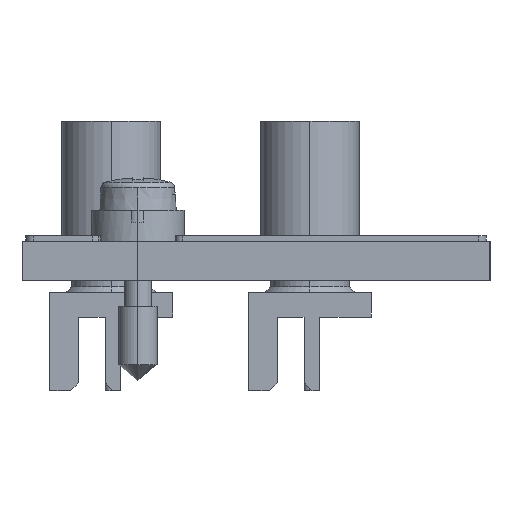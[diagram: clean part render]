
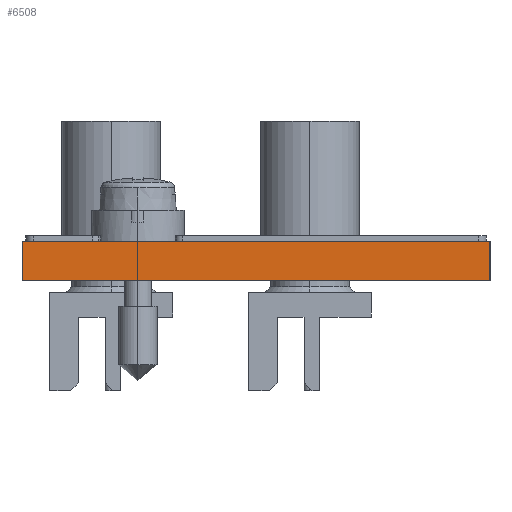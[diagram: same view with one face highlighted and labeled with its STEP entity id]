
A CAD part, left-side view. The second image highlights one B-rep face of the part: STEP entity #6508.
In plain terms, the highlighted planar face has unit normal (-1, 0, 0).
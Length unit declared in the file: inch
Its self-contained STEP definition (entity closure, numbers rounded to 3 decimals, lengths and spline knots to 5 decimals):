
#5=DIRECTION('',(0.,-1.,0.));
#6=VECTOR('',#5,1.188);
#7=CARTESIAN_POINT('',(0.,1.188,0.1));
#8=LINE('',#7,#6);
#595=DIRECTION('',(0.,0.,1.));
#596=VECTOR('',#595,0.1);
#597=CARTESIAN_POINT('',(0.,1.188,0.));
#598=LINE('',#597,#596);
#599=DIRECTION('',(0.,-1.,0.));
#600=VECTOR('',#599,1.188);
#601=CARTESIAN_POINT('',(0.,1.188,0.));
#602=LINE('',#601,#600);
#955=DIRECTION('',(0.,0.,1.));
#956=VECTOR('',#955,0.1);
#957=CARTESIAN_POINT('',(0.,0.,0.));
#958=LINE('',#957,#956);
#4793=CARTESIAN_POINT('',(0.,1.188,0.));
#4794=CARTESIAN_POINT('',(0.,0.,0.));
#4795=VERTEX_POINT('',#4793);
#4796=VERTEX_POINT('',#4794);
#4801=CARTESIAN_POINT('',(0.,1.188,0.1));
#4802=CARTESIAN_POINT('',(0.,0.,0.1));
#4803=VERTEX_POINT('',#4801);
#4804=VERTEX_POINT('',#4802);
#6494=CARTESIAN_POINT('',(0.,1.188,0.));
#6495=DIRECTION('',(-1.,0.,0.));
#6496=DIRECTION('',(0.,-1.,0.));
#6497=AXIS2_PLACEMENT_3D('',#6494,#6495,#6496);
#6498=PLANE('',#6497);
#6500=ORIENTED_EDGE('',*,*,#6499,.F.);
#6502=ORIENTED_EDGE('',*,*,#6501,.T.);
#6503=ORIENTED_EDGE('',*,*,#6178,.T.);
#6505=ORIENTED_EDGE('',*,*,#6504,.F.);
#6506=EDGE_LOOP('',(#6500,#6502,#6503,#6505));
#6507=FACE_OUTER_BOUND('',#6506,.F.);
#6508=ADVANCED_FACE('',(#6507),#6498,.T.);
#6178=EDGE_CURVE('',#4803,#4804,#8,.T.);
#6499=EDGE_CURVE('',#4795,#4796,#602,.T.);
#6501=EDGE_CURVE('',#4795,#4803,#598,.T.);
#6504=EDGE_CURVE('',#4796,#4804,#958,.T.);
